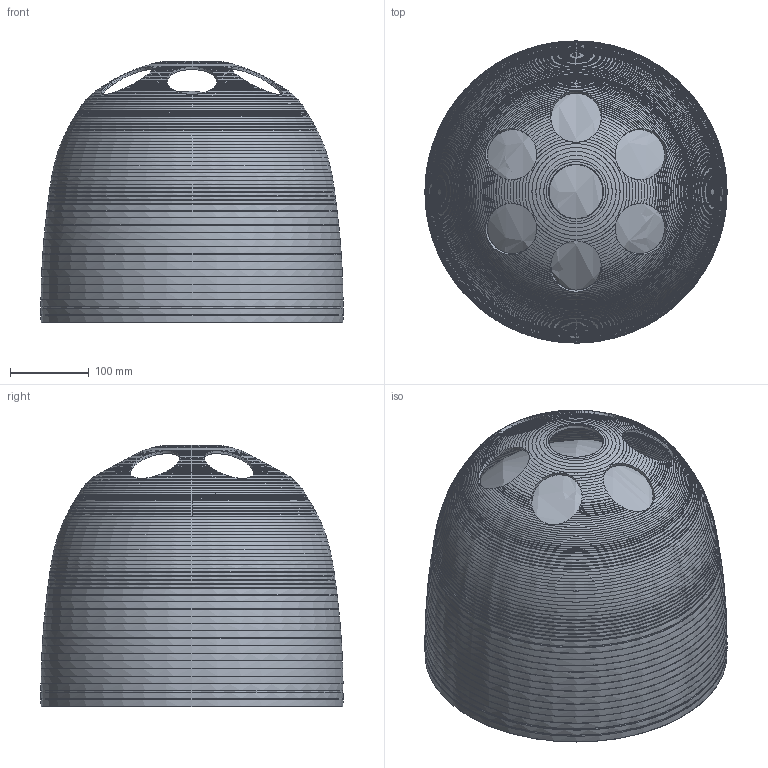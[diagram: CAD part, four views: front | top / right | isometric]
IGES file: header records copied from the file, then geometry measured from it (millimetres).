
Global section: file name: C:\Users\colombo_c\Desktop\Danese\Sito\3D mancanti\Dedalo\Dedalo.igs; native system: Rhinoceros ( Apr 16 2024 ); preprocessor: Trout Lake IGES 012 Apr 16 2024; date: 250707.155731; units: millimetre
Bounding box: 383.71 x 383.7 x 332.23 mm (x, y, z)
Surface area: 1322054.5 mm2 (no closed solid volume)
Topology: 0 solids, 0 shells, 1000 faces, 6445 edges, 6392 vertices
Faces by surface type: bspline 1000
